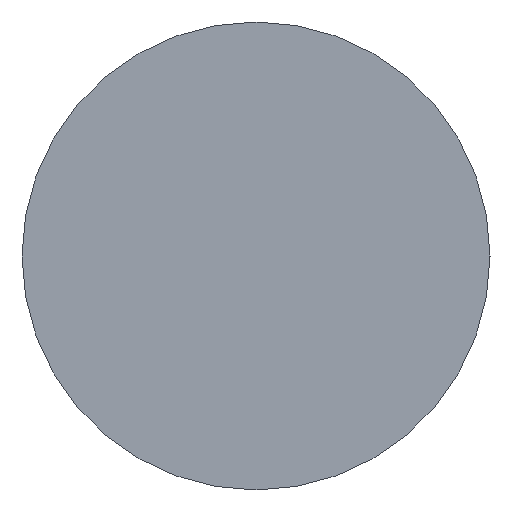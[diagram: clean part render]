
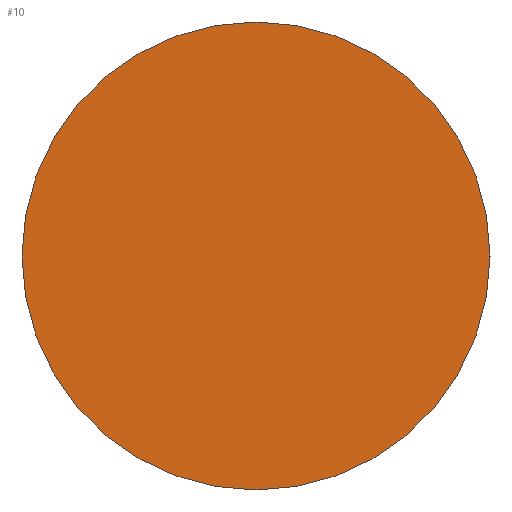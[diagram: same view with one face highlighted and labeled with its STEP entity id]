
A CAD part, left-side view. The second image highlights one B-rep face of the part: STEP entity #10.
In plain terms, the highlighted planar face has unit normal (-1, 0, 0).
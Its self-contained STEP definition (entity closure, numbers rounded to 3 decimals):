
#4 = EDGE_CURVE ( 'NONE', #54, #117, #26, .T. ) ;
#6 = FACE_OUTER_BOUND ( 'NONE', #78, .T. ) ;
#7 = DIRECTION ( 'NONE',  ( 0., 0., -1. ) ) ;
#10 = ADVANCED_FACE ( 'NONE', ( #6 ), #67, .F. ) ;
#22 = DIRECTION ( 'NONE',  ( 0., 0., 1. ) ) ;
#24 = ORIENTED_EDGE ( 'NONE', *, *, #110, .T. ) ;
#26 = CIRCLE ( 'NONE', #64, 1. ) ;
#34 = CARTESIAN_POINT ( 'NONE',  ( 0., 0., 0. ) ) ;
#51 = CARTESIAN_POINT ( 'NONE',  ( 0., 0., 1. ) ) ;
#54 = VERTEX_POINT ( 'NONE', #51 ) ;
#56 = AXIS2_PLACEMENT_3D ( 'NONE', #106, #91, #7 ) ;
#64 = AXIS2_PLACEMENT_3D ( 'NONE', #107, #131, #66 ) ;
#66 = DIRECTION ( 'NONE',  ( 0., 0., 1. ) ) ;
#67 = PLANE ( 'NONE',  #56 ) ;
#78 = EDGE_LOOP ( 'NONE', ( #115, #24 ) ) ;
#91 = DIRECTION ( 'NONE',  ( 1., 0., 0. ) ) ;
#92 = AXIS2_PLACEMENT_3D ( 'NONE', #34, #126, #22 ) ;
#95 = CARTESIAN_POINT ( 'NONE',  ( 0., 0., -1. ) ) ;
#106 = CARTESIAN_POINT ( 'NONE',  ( 0., 0., 0. ) ) ;
#107 = CARTESIAN_POINT ( 'NONE',  ( 0., 0., 0. ) ) ;
#110 = EDGE_CURVE ( 'NONE', #117, #54, #137, .T. ) ;
#115 = ORIENTED_EDGE ( 'NONE', *, *, #4, .T. ) ;
#117 = VERTEX_POINT ( 'NONE', #95 ) ;
#126 = DIRECTION ( 'NONE',  ( -1., 0., 0. ) ) ;
#131 = DIRECTION ( 'NONE',  ( -1., 0., 0. ) ) ;
#137 = CIRCLE ( 'NONE', #92, 1. ) ;
